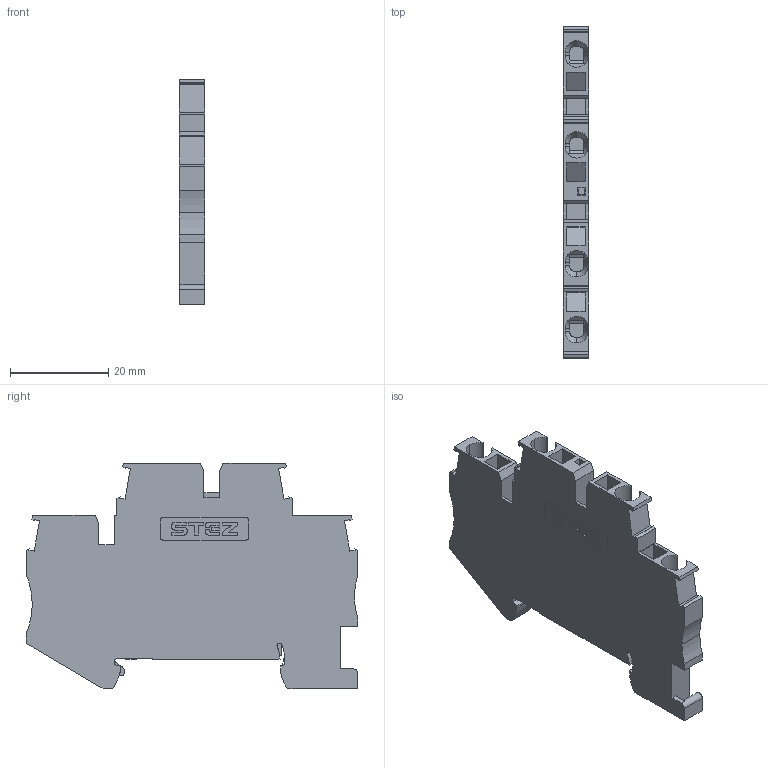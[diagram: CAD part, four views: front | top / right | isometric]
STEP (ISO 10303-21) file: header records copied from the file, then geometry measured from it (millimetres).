
FILE_DESCRIPTION(('TFLEX Exchange Step'),'2;1');
FILE_NAME('10100012_KH3_2,5-2Y-PE.stp', '2023-10-02T14:57:29+03:00',('apanin'),('Unknown organisation'),'TFLEX Exchange 2023.0','T-FLEX CAD','Unknown authorisation');
FILE_SCHEMA( ('AUTOMOTIVE_DESIGN { 1 0 10303 214 1 1 1 1 }') );
Length unit declared in the file: millimetre
Products named in the file (1): Тело_1:1
Bounding box: 5.15 x 67.55 x 45.85 mm (x, y, z)
Volume: 10544.2 mm3; surface area: 7515.6 mm2
Topology: 1 solids, 1 shells, 476 faces, 1374 edges, 912 vertices
Faces by surface type: plane 244, cylinder 216, cone 16
Entity records: 16969 total; most frequent: CARTESIAN_POINT 4019, ORIENTED_EDGE 2748, DIRECTION 2659, EDGE_CURVE 1374, VERTEX_POINT 912, AXIS2_PLACEMENT_3D 904, VECTOR 851, LINE 851
